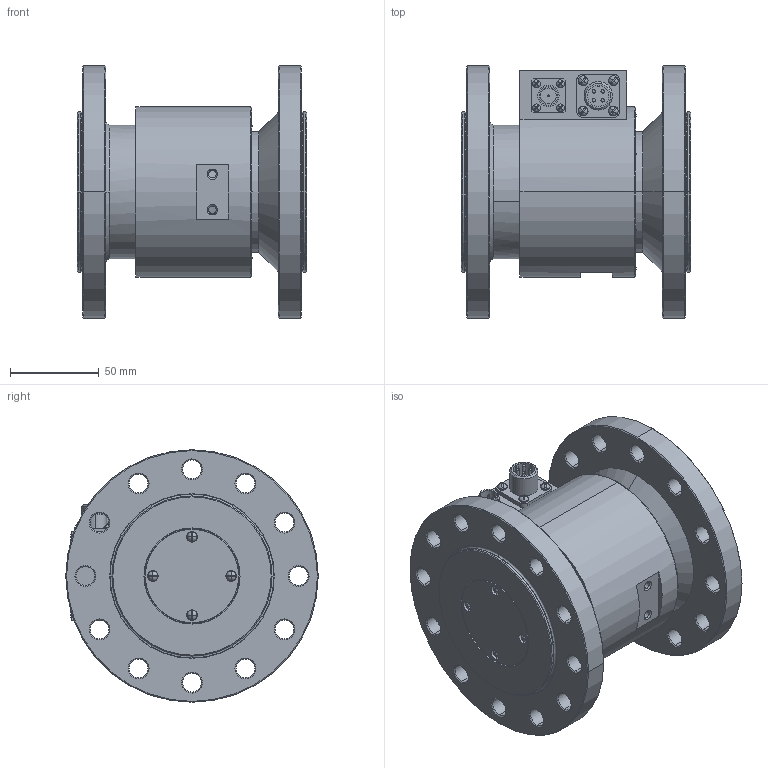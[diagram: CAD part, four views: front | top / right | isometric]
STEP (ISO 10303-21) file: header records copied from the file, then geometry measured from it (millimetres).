
FILE_DESCRIPTION (( 'STEP AP214' ), '1' );
FILE_NAME ('懾譈鴀 M20C-2k.STEP', '2021-02-12T07:54:51', ( '砐錪賧瘔蠈錪 Windows' ), ( '' ), 'SwSTEP 2.0', 'SolidWorks 2019', '' );
FILE_SCHEMA (( 'AUTOMOTIVE_DESIGN' ));
Length unit declared in the file: millimetre
Products named in the file (1): 懾譈鴀 M20C-2k
Bounding box: 129 x 142 x 142 mm (x, y, z)
Volume: 1061440.5 mm3; surface area: 125587.1 mm2
Topology: 1 solids, 25 shells, 868 faces, 2006 edges, 1238 vertices
Faces by surface type: cylinder 318, plane 256, cone 234, sphere 52, torus 8
Entity records: 25770 total; most frequent: CARTESIAN_POINT 5285, DIRECTION 4592, ORIENTED_EDGE 3964, EDGE_CURVE 1982, AXIS2_PLACEMENT_3D 1929, VERTEX_POINT 1238, CIRCLE 1060, EDGE_LOOP 1036
